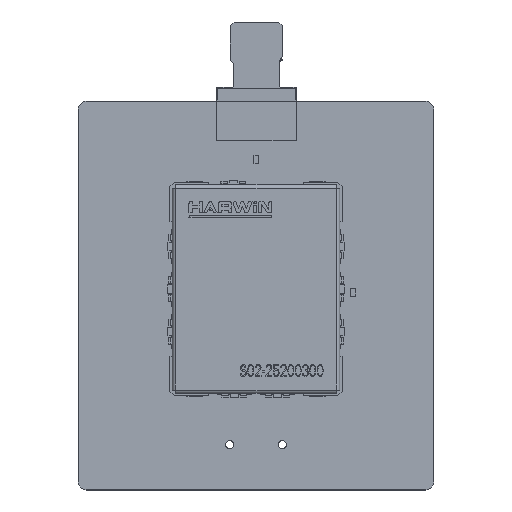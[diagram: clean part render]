
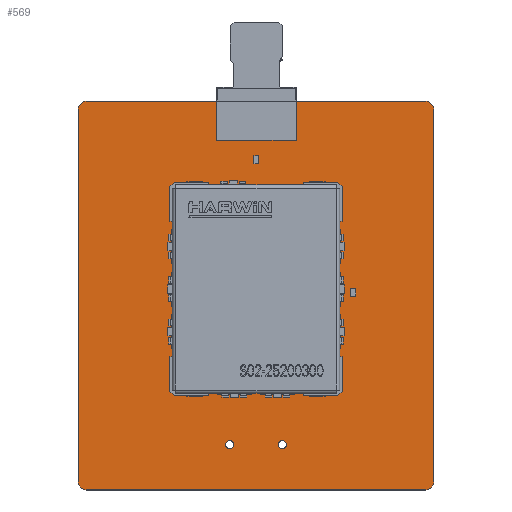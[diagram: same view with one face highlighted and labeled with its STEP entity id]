
A CAD part, top view. The second image highlights one B-rep face of the part: STEP entity #569.
In plain terms, the highlighted planar face has unit normal (0, 0, 1).
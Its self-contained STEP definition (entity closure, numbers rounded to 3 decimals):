
#232 = VERTEX_POINT('',#233);
#233 = CARTESIAN_POINT('',(0.,1.,1.016));
#239 = EDGE_CURVE('',#232,#240,#242,.T.);
#240 = VERTEX_POINT('',#241);
#241 = CARTESIAN_POINT('',(1.,0.,1.016));
#242 = CIRCLE('',#243,1.);
#243 = AXIS2_PLACEMENT_3D('',#244,#245,#246);
#244 = CARTESIAN_POINT('',(1.,1.,1.016));
#245 = DIRECTION('',(0.,0.,1.));
#246 = DIRECTION('',(-1.,0.,0.));
#272 = EDGE_CURVE('',#240,#273,#275,.T.);
#273 = VERTEX_POINT('',#274);
#274 = CARTESIAN_POINT('',(42.,0.,1.016));
#275 = LINE('',#276,#277);
#276 = CARTESIAN_POINT('',(1.,0.,1.016));
#277 = VECTOR('',#278,1.);
#278 = DIRECTION('',(1.,0.,0.));
#303 = EDGE_CURVE('',#273,#304,#306,.T.);
#304 = VERTEX_POINT('',#305);
#305 = CARTESIAN_POINT('',(43.,1.,1.016));
#306 = CIRCLE('',#307,1.);
#307 = AXIS2_PLACEMENT_3D('',#308,#309,#310);
#308 = CARTESIAN_POINT('',(42.,1.,1.016));
#309 = DIRECTION('',(0.,0.,1.));
#310 = DIRECTION('',(0.,-1.,0.));
#336 = EDGE_CURVE('',#304,#337,#339,.T.);
#337 = VERTEX_POINT('',#338);
#338 = CARTESIAN_POINT('',(43.,46.,1.016));
#339 = LINE('',#340,#341);
#340 = CARTESIAN_POINT('',(43.,1.,1.016));
#341 = VECTOR('',#342,1.);
#342 = DIRECTION('',(0.,1.,0.));
#367 = EDGE_CURVE('',#337,#368,#370,.T.);
#368 = VERTEX_POINT('',#369);
#369 = CARTESIAN_POINT('',(42.,47.,1.016));
#370 = CIRCLE('',#371,1.);
#371 = AXIS2_PLACEMENT_3D('',#372,#373,#374);
#372 = CARTESIAN_POINT('',(42.,46.,1.016));
#373 = DIRECTION('',(0.,0.,1.));
#374 = DIRECTION('',(1.,0.,-0.));
#400 = EDGE_CURVE('',#368,#401,#403,.T.);
#401 = VERTEX_POINT('',#402);
#402 = CARTESIAN_POINT('',(1.,47.,1.016));
#403 = LINE('',#404,#405);
#404 = CARTESIAN_POINT('',(42.,47.,1.016));
#405 = VECTOR('',#406,1.);
#406 = DIRECTION('',(-1.,0.,0.));
#431 = EDGE_CURVE('',#401,#432,#434,.T.);
#432 = VERTEX_POINT('',#433);
#433 = CARTESIAN_POINT('',(0.,46.,1.016));
#434 = CIRCLE('',#435,1.);
#435 = AXIS2_PLACEMENT_3D('',#436,#437,#438);
#436 = CARTESIAN_POINT('',(1.,46.,1.016));
#437 = DIRECTION('',(0.,0.,1.));
#438 = DIRECTION('',(0.,1.,0.));
#464 = EDGE_CURVE('',#432,#232,#465,.T.);
#465 = LINE('',#466,#467);
#466 = CARTESIAN_POINT('',(0.,46.,1.016));
#467 = VECTOR('',#468,1.);
#468 = DIRECTION('',(0.,-1.,0.));
#488 = VERTEX_POINT('',#489);
#489 = CARTESIAN_POINT('',(18.825,5.465,1.016));
#495 = EDGE_CURVE('',#488,#488,#496,.T.);
#496 = CIRCLE('',#497,0.5);
#497 = AXIS2_PLACEMENT_3D('',#498,#499,#500);
#498 = CARTESIAN_POINT('',(18.325,5.465,1.016));
#499 = DIRECTION('',(0.,0.,1.));
#500 = DIRECTION('',(1.,0.,-0.));
#521 = VERTEX_POINT('',#522);
#522 = CARTESIAN_POINT('',(25.175,5.465,1.016));
#528 = EDGE_CURVE('',#521,#521,#529,.T.);
#529 = CIRCLE('',#530,0.5);
#530 = AXIS2_PLACEMENT_3D('',#531,#532,#533);
#531 = CARTESIAN_POINT('',(24.675,5.465,1.016));
#532 = DIRECTION('',(0.,0.,1.));
#533 = DIRECTION('',(1.,0.,-0.));
#569 = ADVANCED_FACE('',(#570,#580,#583),#586,.T.);
#570 = FACE_BOUND('',#571,.T.);
#571 = EDGE_LOOP('',(#572,#573,#574,#575,#576,#577,#578,#579));
#572 = ORIENTED_EDGE('',*,*,#239,.T.);
#573 = ORIENTED_EDGE('',*,*,#272,.T.);
#574 = ORIENTED_EDGE('',*,*,#303,.T.);
#575 = ORIENTED_EDGE('',*,*,#336,.T.);
#576 = ORIENTED_EDGE('',*,*,#367,.T.);
#577 = ORIENTED_EDGE('',*,*,#400,.T.);
#578 = ORIENTED_EDGE('',*,*,#431,.T.);
#579 = ORIENTED_EDGE('',*,*,#464,.T.);
#580 = FACE_BOUND('',#581,.T.);
#581 = EDGE_LOOP('',(#582));
#582 = ORIENTED_EDGE('',*,*,#495,.F.);
#583 = FACE_BOUND('',#584,.T.);
#584 = EDGE_LOOP('',(#585));
#585 = ORIENTED_EDGE('',*,*,#528,.F.);
#586 = PLANE('',#587);
#587 = AXIS2_PLACEMENT_3D('',#588,#589,#590);
#588 = CARTESIAN_POINT('',(21.5,23.5,1.016));
#589 = DIRECTION('',(0.,0.,1.));
#590 = DIRECTION('',(1.,0.,-0.));
